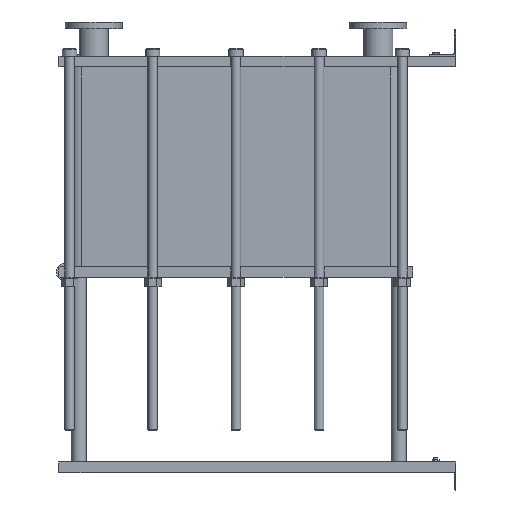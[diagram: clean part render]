
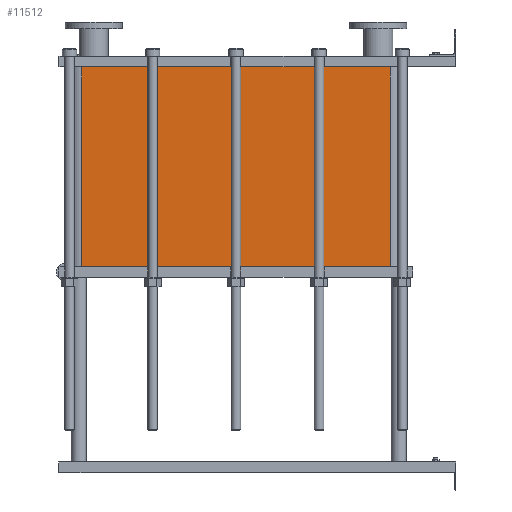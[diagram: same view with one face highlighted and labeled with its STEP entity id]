
A CAD part, left-side view. The second image highlights one B-rep face of the part: STEP entity #11512.
In plain terms, the highlighted planar face has unit normal (-1, 0, 0).
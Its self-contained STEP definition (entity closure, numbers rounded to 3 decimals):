
#1129=LINE('',#23232,#2102);
#1130=LINE('',#23236,#2103);
#1131=LINE('',#23238,#2104);
#1132=LINE('',#23239,#2105);
#2102=VECTOR('',#15887,10.);
#2103=VECTOR('',#15892,10.);
#2104=VECTOR('',#15893,10.);
#2105=VECTOR('',#15894,10.);
#3267=FACE_OUTER_BOUND('',#4093,.T.);
#4093=EDGE_LOOP('',(#10103,#10104,#10105,#10106));
#5642=VERTEX_POINT('',#23229);
#5643=VERTEX_POINT('',#23231);
#5644=VERTEX_POINT('',#23235);
#5645=VERTEX_POINT('',#23237);
#7159=EDGE_CURVE('',#5643,#5642,#1129,.T.);
#7161=EDGE_CURVE('',#5642,#5644,#1130,.T.);
#7162=EDGE_CURVE('',#5645,#5644,#1131,.T.);
#7163=EDGE_CURVE('',#5645,#5643,#1132,.T.);
#10103=ORIENTED_EDGE('',*,*,#7161,.T.);
#10104=ORIENTED_EDGE('',*,*,#7162,.F.);
#10105=ORIENTED_EDGE('',*,*,#7163,.T.);
#10106=ORIENTED_EDGE('',*,*,#7159,.T.);
#10857=PLANE('',#12751);
#11512=ADVANCED_FACE('',(#3267),#10857,.T.);
#12751=AXIS2_PLACEMENT_3D('',#23234,#15890,#15891);
#15887=DIRECTION('',(0.,0.,-1.));
#15890=DIRECTION('center_axis',(-1.,0.,0.));
#15891=DIRECTION('ref_axis',(0.,1.,0.));
#15892=DIRECTION('',(0.,-1.,0.));
#15893=DIRECTION('',(0.,0.,-1.));
#15894=DIRECTION('',(0.,1.,0.));
#23229=CARTESIAN_POINT('',(-200.,1414.,-755.55));
#23231=CARTESIAN_POINT('',(-200.,1414.,0.));
#23232=CARTESIAN_POINT('',(-200.,1414.,0.));
#23234=CARTESIAN_POINT('Origin',(-200.,248.,0.));
#23235=CARTESIAN_POINT('',(-200.,248.,-755.55));
#23236=CARTESIAN_POINT('',(-200.,539.5,-755.55));
#23237=CARTESIAN_POINT('',(-200.,248.,0.));
#23238=CARTESIAN_POINT('',(-200.,248.,0.));
#23239=CARTESIAN_POINT('',(-200.,248.,0.));
